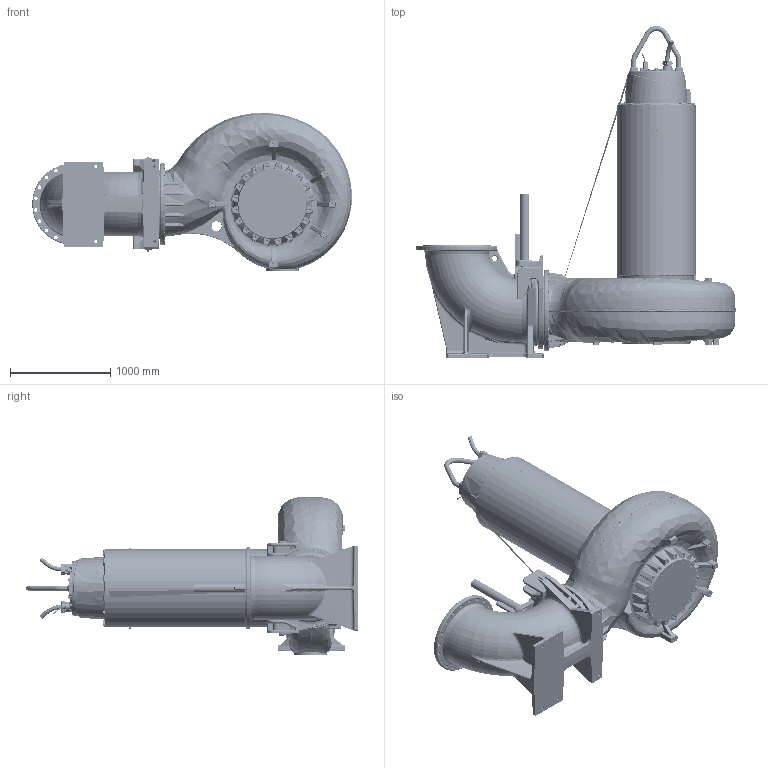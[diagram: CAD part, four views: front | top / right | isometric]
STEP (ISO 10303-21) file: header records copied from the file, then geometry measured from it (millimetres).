
FILE_DESCRIPTION (( 'STEP AP214' ), '1' );
FILE_NAME ('PE7_XFP600-SK3_WET_E.STEP', '2017-04-04T06:25:43', ( '' ), ( '' ), 'SwSTEP 2.0', 'SolidWorks 2017', '' );
FILE_SCHEMA (( 'AUTOMOTIVE_DESIGN' ));
Length unit declared in the file: millimetre
Products named in the file (1): PE7_XFP600-SK3_WET_E
Bounding box: 3196.1 x 3317.98 x 1582.72 mm (x, y, z)
Volume: 2600671879.5 mm3; surface area: 22768183.9 mm2
Topology: 4 solids, 25 shells, 5969 faces, 14616 edges, 8479 vertices
Faces by surface type: bspline 1666, cylinder 1548, plane 1467, torus 558, cone 460, sphere 270
Entity records: 357209 total; most frequent: CARTESIAN_POINT 165223, ORIENTED_EDGE 28364, DIRECTION 23907, EDGE_CURVE 14182, AXIS2_PLACEMENT_3D 9615, VERTEX_POINT 8469, EDGE_LOOP 6393, UNCERTAINTY_MEASURE_WITH_UNIT 5975
